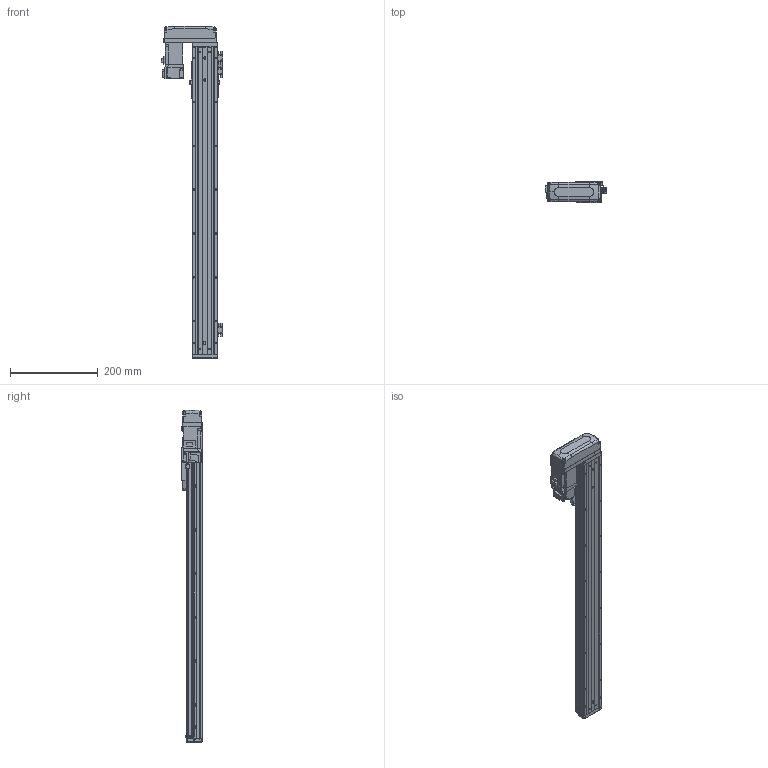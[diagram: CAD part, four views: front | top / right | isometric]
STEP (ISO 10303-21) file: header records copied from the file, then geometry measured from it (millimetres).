
FILE_DESCRIPTION (( 'STEP AP203' ), '1' );
FILE_NAME ('CTHA50-550-BR-M10-C4L.step', '2022-03-19T06:07:38', ( '微软用户' ), ( '微软中国' ), 'SwSTEP 2.0', 'SolidWorks 2020', '' );
FILE_SCHEMA (( 'CONFIG_CONTROL_DESIGN' ));
Length unit declared in the file: millimetre
Products named in the file (20): GBT 70.1-M3×15; KTHA50-004; CTHA50-002; CTHA50-550-BR-M10-C4L; KTHA50-005; GBT 70.1-M3℅6; CTHA50-030; GB¨uT 70.2-M3¡Á6_M3¡Á6; CTHA60-017; CTHA50-031; EE_SX911P_R; GBT 70.1-M4×12; GBT 70.3-M3℅6; GBT77-2000 M3×3; CTHA60-016; CTHA50-015-2_CTHA60-015-2; CTHA60-021; CTHA60-033; KTHA50-001_700; HG-KR13（三菱）
Assembly tree (60 placements, depth 2):
  CTHA50-550-BR-M10-C4L
    KTHA50-001_700
    KTHA50-004
    KTHA50-005
    GB¨uT 70.2-M3¡Á6_M3¡Á6  x10
    EE_SX911P_R  x3
    GBT77-2000 M3×3  x6
    GBT 70.1-M3℅6  x6
    CTHA60-017  x3
    GBT 70.1-M4×12  x10
    CTHA60-016  x2
    CTHA60-021  x2
    HG-KR13（三菱）
    CTHA50-002
    CTHA50-030  x2
    CTHA50-031
    GBT 70.3-M3℅6  x4
    CTHA50-015-2_CTHA60-015-2
    CTHA60-033
    GBT 70.1-M3×15  x4
Bounding box: 139.12 x 48 x 757 mm (x, y, z)
Volume: 1455529.6 mm3; surface area: 372195.2 mm2
Topology: 62 solids, 62 shells, 2553 faces, 6079 edges, 3726 vertices
Faces by surface type: plane 1446, cylinder 594, cone 355, torus 108, bspline 26, sphere 24
Entity records: 43977 total; most frequent: CARTESIAN_POINT 8107, DIRECTION 6865, ORIENTED_EDGE 6666, EDGE_CURVE 3333, VECTOR 2337, LINE 2337, AXIS2_PLACEMENT_3D 2264, VERTEX_POINT 2100
